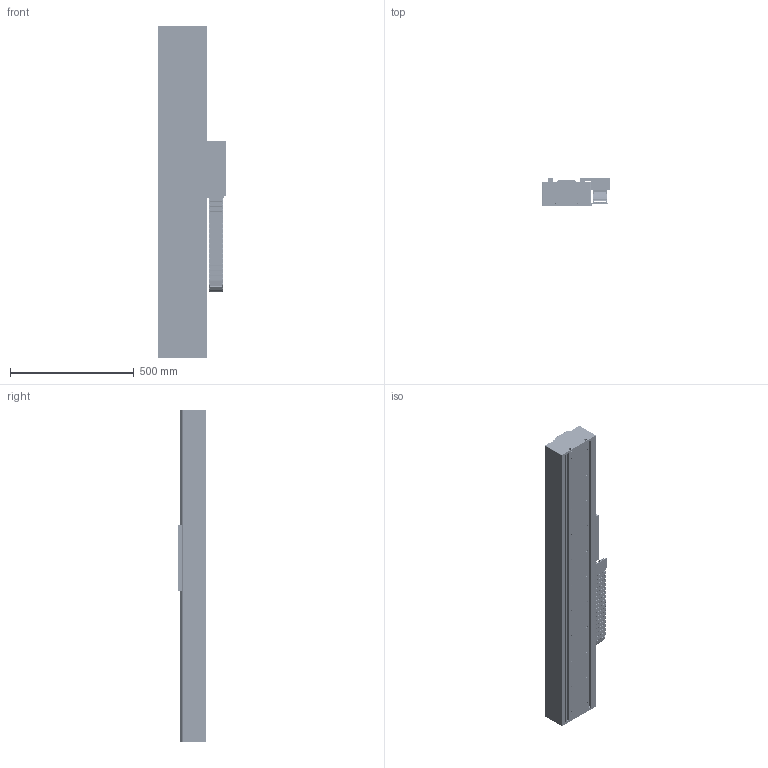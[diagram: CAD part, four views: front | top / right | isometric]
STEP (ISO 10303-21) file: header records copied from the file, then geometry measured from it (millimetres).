
FILE_DESCRIPTION (( 'STEP AP203' ), '1' );
FILE_NAME ('STF50200F-xC1B-Bxx.STEP', '2007-10-29T13:53:13', ( 'Yaskawa' ), ( 'Yaskawa' ), 'SwSTEP 2.0', 'SolidWorks 2007', '' );
FILE_SCHEMA (( 'CONFIG_CONTROL_DESIGN' ));
Products named in the file (57): STF50-007 End Stop; STF50-005-R2 Cable Router; STF50 Large End Stop; 07.50.038.0_47; STF50-0200-R1 Carriage; Large Bumper; STF50-001A F50-200 Carriage; SGLFW-50A200AP; STF50-003 Renishaw Encoder Bracket; STF50-004 Flag; SSR20W Block; RGH22B; STF50-002A-R1 F50-200 Carriage Horn; STCM-R1; STCM-001-R2 Cable Bracket; STCM-002-R2 Cable Assembly Front; STCM-003 Cable Assembly Bottom; STCM-004 Cable Assembly Side; STCM-005-R1 Cable Assembly Cover; STCM-006-R1 Upper E-chain Bracket; Serial Converter; STF50-006 Endplate; STF50-009-03 Top Cover_F; STF50-10-03 Side COver_F; STCM-007 Lower E-Chain Bracket; STF50200F; 07.50.038.0_20; 07.50.038.0_27; 07.50.038.0_23; 07.50.038.0_28; 07.50.038.0_21; 07.50.038.0_22; 07.50.038.0_24; 07.50.038.0_25; 07.50.038.0_26; 07.50.038.0_29; 07.50.038.0_30; 07.50.038.0_33; 07.50.038.0_37; 07.50.038.0_34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
Assembly tree (82 placements, depth 4):
  STF50200F-xC1B-Bxx
    SGLFM-50405AC  x3
    STF50200F
      07.50.038.0_27
      07.50.038.0_32  x9
      07.50.038.0_36
      07.50.038.0_31  x7
      07.50.038.0_35
      07.50.038.0_28
      07.50.038.0_30
      07.50.038.0_24
      07.50.038.0_20
      07.50.038.0_29
      07.50.038.0_40
      07.50.038.0_34
      07.50.038.0_33
      07.50.038.0_26
      07.50.038.0_38
      07.50.038.0_37
      07.50.038.0_41
      07.50.038.0_42
      07.50.038.0_43
      07.50.038.0_25
      07.50.038.0_21
      07.50.038.0_39
      07.50.038.0_45
      07.50.038.0_23
      07.50.038.0_46
      07.50.038.0_47
      07.50.038.0_22
      07.50.038.0_44
    SSR20 Rail 820_1240  x2
    STF50-0200-R1 Carriage
      SSR20W Block  x4
      STF50-002A-R1 F50-200 Carriage Horn  x2
      STF50-005-R2 Cable Router
      STF50-001A F50-200 Carriage
      STF50-004 Flag
      STF50-003 Renishaw Encoder Bracket
      RGH22B
      STCM-R1
        STCM-003 Cable Assembly Bottom
        STCM-002-R2 Cable Assembly Front
        STCM-004 Cable Assembly Side
        STCM-001-R2 Cable Bracket
        Serial Converter
        STCM-006-R1 Upper E-chain Bracket
        STCM-005-R1 Cable Assembly Cover
      SGLFW-50A200AP
    STF50-10-03 Side COver_F  x2
    STF50 Large End Stop  x4
      STF50-007 End Stop
      Large Bumper
    STCM-007 Lower E-Chain Bracket
    STF50-006 Endplate  x2
    STF50-009-03 Top Cover_F
    STF50200 Base_STF50BM-006
Bounding box: 272.91 x 115 x 1339.05 mm (x, y, z)
Volume: 11871072.9 mm3; surface area: 3280136.4 mm2
Topology: 121 solids, 121 shells, 5723 faces, 15108 edges, 9684 vertices
Faces by surface type: plane 2875, cylinder 2428, cone 404, torus 8, bspline 8
Entity records: 127039 total; most frequent: DIRECTION 21494, CARTESIAN_POINT 20967, ORIENTED_EDGE 19944, EDGE_CURVE 9972, AXIS2_PLACEMENT_3D 7585, VERTEX_POINT 6532, VECTOR 6324, LINE 6324
